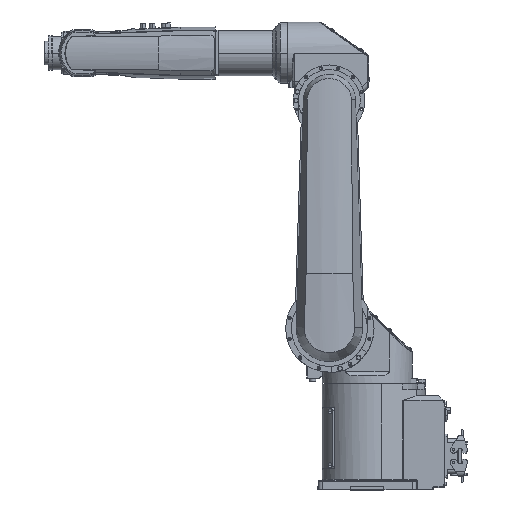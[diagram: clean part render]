
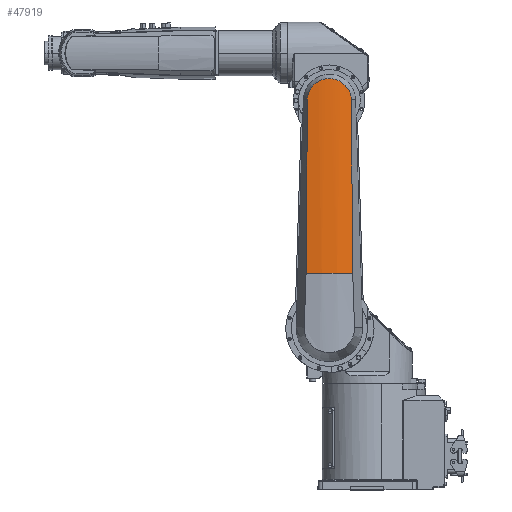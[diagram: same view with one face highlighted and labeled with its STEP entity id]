
A CAD part, top view. The second image highlights one B-rep face of the part: STEP entity #47919.
In plain terms, the highlighted cylindrical face has radius 270 mm (diameter 540 mm), a partial arc.
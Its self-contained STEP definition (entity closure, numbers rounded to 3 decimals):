
#47398=CARTESIAN_POINT('',(0.,525.901,138.));
#47399=CARTESIAN_POINT('',(-1.158,525.901,
138.));
#47400=CARTESIAN_POINT('',(-3.474,525.819,
137.99));
#47401=CARTESIAN_POINT('',(-6.958,525.435,
137.948));
#47402=CARTESIAN_POINT('',(-10.412,524.795,137.879));
#47403=CARTESIAN_POINT('',(-13.81,523.902,
137.784));
#47404=CARTESIAN_POINT('',(-17.126,522.764,
137.668));
#47405=CARTESIAN_POINT('',(-20.339,521.387,
137.535));
#47406=CARTESIAN_POINT('',(-23.429,519.78,
137.388));
#47407=CARTESIAN_POINT('',(-26.378,517.957,
137.234));
#47408=CARTESIAN_POINT('',(-29.17,515.929,
137.078));
#47409=CARTESIAN_POINT('',(-31.789,513.709,
136.925));
#47410=CARTESIAN_POINT('',(-34.221,511.314,
136.782));
#47411=CARTESIAN_POINT('',(-36.451,508.76,
136.655));
#47412=CARTESIAN_POINT('',(-38.47,506.067,
136.548));
#47413=CARTESIAN_POINT('',(-40.27,503.247,
136.467));
#47414=CARTESIAN_POINT('',(-41.845,500.317,
136.417));
#47415=CARTESIAN_POINT('',(-43.188,497.293,
136.401));
#47416=CARTESIAN_POINT('',(-44.295,494.19,
136.423));
#47417=CARTESIAN_POINT('',(-45.163,491.028,
136.485));
#47418=CARTESIAN_POINT('',(-45.788,487.831,
136.588));
#47419=CARTESIAN_POINT('',(-46.171,484.625,
136.733));
#47420=CARTESIAN_POINT('',(-46.261,482.505,
136.857));
#47421=CARTESIAN_POINT('',(-46.269,481.447,
136.925));
#47423=CARTESIAN_POINT('',(46.269,481.447,136.925));
#47424=CARTESIAN_POINT('',(46.261,482.505,136.857));
#47425=CARTESIAN_POINT('',(46.172,484.626,136.733));
#47426=CARTESIAN_POINT('',(45.788,487.835,136.588));
#47427=CARTESIAN_POINT('',(45.162,491.034,136.485));
#47428=CARTESIAN_POINT('',(44.292,494.198,136.423));
#47429=CARTESIAN_POINT('',(43.185,497.3,136.401));
#47430=CARTESIAN_POINT('',(41.841,500.325,136.417));
#47431=CARTESIAN_POINT('',(40.266,503.254,136.468));
#47432=CARTESIAN_POINT('',(38.465,506.074,136.548));
#47433=CARTESIAN_POINT('',(36.446,508.767,136.655));
#47434=CARTESIAN_POINT('',(34.215,511.32,136.782));
#47435=CARTESIAN_POINT('',(31.783,513.715,136.925));
#47436=CARTESIAN_POINT('',(29.163,515.934,137.078));
#47437=CARTESIAN_POINT('',(26.371,517.962,137.234));
#47438=CARTESIAN_POINT('',(23.421,519.785,137.389));
#47439=CARTESIAN_POINT('',(20.33,521.391,137.535));
#47440=CARTESIAN_POINT('',(17.116,522.768,137.669));
#47441=CARTESIAN_POINT('',(13.8,523.905,137.785));
#47442=CARTESIAN_POINT('',(10.403,524.797,137.879));
#47443=CARTESIAN_POINT('',(6.952,525.436,137.948));
#47444=CARTESIAN_POINT('',(3.471,525.819,137.99));
#47445=CARTESIAN_POINT('',(1.157,525.901,138.));
#47446=CARTESIAN_POINT('',(0.,525.901,138.));
#47448=CARTESIAN_POINT('',(49.117,115.852,160.495));
#47449=CARTESIAN_POINT('',(48.166,237.717,152.644));
#47450=CARTESIAN_POINT('',(47.216,359.582,144.788));
#47451=CARTESIAN_POINT('',(46.269,481.447,136.925));
#47453=CARTESIAN_POINT('',(49.117,115.852,160.495));
#47454=CARTESIAN_POINT('',(45.07,115.876,161.244));
#47455=CARTESIAN_POINT('',(36.941,115.92,162.556));
#47456=CARTESIAN_POINT('',(24.668,115.966,163.965));
#47457=CARTESIAN_POINT('',(12.343,115.994,164.812));
#47458=CARTESIAN_POINT('',(-0.006,116.003,
165.094));
#47459=CARTESIAN_POINT('',(-12.353,115.994,
164.811));
#47460=CARTESIAN_POINT('',(-24.675,115.966,
163.965));
#47461=CARTESIAN_POINT('',(-36.944,115.92,
162.556));
#47462=CARTESIAN_POINT('',(-45.071,115.876,
161.243));
#47463=CARTESIAN_POINT('',(-49.117,115.852,
160.495));
#47537=CARTESIAN_POINT('',(-49.117,115.852,
160.495));
#47543=CARTESIAN_POINT('',(-49.117,115.852,
160.495));
#47544=CARTESIAN_POINT('',(-48.166,237.717,
152.644));
#47545=CARTESIAN_POINT('',(-47.216,359.582,
144.788));
#47546=CARTESIAN_POINT('',(-46.269,481.447,
136.925));
#47868=VERTEX_POINT('',#47537);
#47873=CARTESIAN_POINT('',(-46.269,481.447,
136.925));
#47874=VERTEX_POINT('',#47873);
#47875=VERTEX_POINT('',#47453);
#47878=VERTEX_POINT('',#47398);
#47879=VERTEX_POINT('',#47423);
#47902=CARTESIAN_POINT('',(0.,303.202,-117.916));
#47903=DIRECTION('',(0.,-0.998,0.066));
#47904=DIRECTION('',(0.182,0.065,0.981));
#47905=AXIS2_PLACEMENT_3D('',#47902,#47903,#47904);
#47906=CYLINDRICAL_SURFACE('',#47905,270.);
#47908=ORIENTED_EDGE('',*,*,#47907,.T.);
#47910=ORIENTED_EDGE('',*,*,#47909,.T.);
#47912=ORIENTED_EDGE('',*,*,#47911,.F.);
#47914=ORIENTED_EDGE('',*,*,#47913,.F.);
#47916=ORIENTED_EDGE('',*,*,#47915,.F.);
#47917=EDGE_LOOP('',(#47908,#47910,#47912,#47914,#47916));
#47918=FACE_OUTER_BOUND('',#47917,.F.);
#47919=ADVANCED_FACE('',(#47918),#47906,.T.);
#47422=B_SPLINE_CURVE_WITH_KNOTS('',3,(#47398,#47399,#47400,#47401,#47402,
#47403,#47404,#47405,#47406,#47407,#47408,#47409,#47410,#47411,#47412,#47413,
#47414,#47415,#47416,#47417,#47418,#47419,#47420,#47421),.UNSPECIFIED.,.F.,.F.,(
4,1,1,1,1,1,1,1,1,1,1,1,1,1,1,1,1,1,1,1,1,4),(0.,0.048,
0.095,0.143,0.19,0.238,
0.286,0.333,0.381,0.429,
0.476,0.524,0.571,0.619,
0.667,0.714,0.762,0.81,
0.857,0.905,0.952,1.),.UNSPECIFIED.);
#47447=B_SPLINE_CURVE_WITH_KNOTS('',3,(#47423,#47424,#47425,#47426,#47427,
#47428,#47429,#47430,#47431,#47432,#47433,#47434,#47435,#47436,#47437,#47438,
#47439,#47440,#47441,#47442,#47443,#47444,#47445,#47446),.UNSPECIFIED.,.F.,.F.,(
4,1,1,1,1,1,1,1,1,1,1,1,1,1,1,1,1,1,1,1,1,4),(0.,0.048,
0.095,0.143,0.19,0.238,
0.286,0.333,0.381,0.429,
0.476,0.524,0.571,0.619,
0.667,0.714,0.762,0.81,
0.857,0.905,0.952,1.),.UNSPECIFIED.);
#47452=B_SPLINE_CURVE_WITH_KNOTS('',3,(#47448,#47449,#47450,#47451),
.UNSPECIFIED.,.F.,.F.,(4,4),(0.,1.),.UNSPECIFIED.);
#47464=B_SPLINE_CURVE_WITH_KNOTS('',3,(#47453,#47454,#47455,#47456,#47457,
#47458,#47459,#47460,#47461,#47462,#47463),.UNSPECIFIED.,.F.,.F.,(4,1,1,1,1,1,1,
1,4),(0.,0.125,0.25,0.375,0.5,0.625,0.75,0.875,1.),
.UNSPECIFIED.);
#47547=B_SPLINE_CURVE_WITH_KNOTS('',3,(#47543,#47544,#47545,#47546),
.UNSPECIFIED.,.F.,.F.,(4,4),(0.,1.),.UNSPECIFIED.);
#47907=EDGE_CURVE('',#47875,#47868,#47464,.T.);
#47909=EDGE_CURVE('',#47868,#47874,#47547,.T.);
#47911=EDGE_CURVE('',#47878,#47874,#47422,.T.);
#47913=EDGE_CURVE('',#47879,#47878,#47447,.T.);
#47915=EDGE_CURVE('',#47875,#47879,#47452,.T.);
